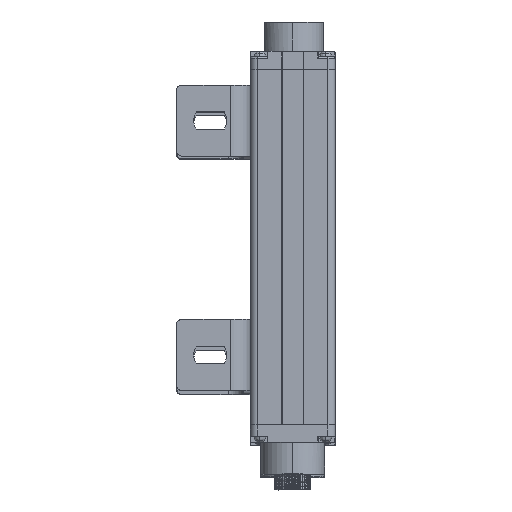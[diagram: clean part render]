
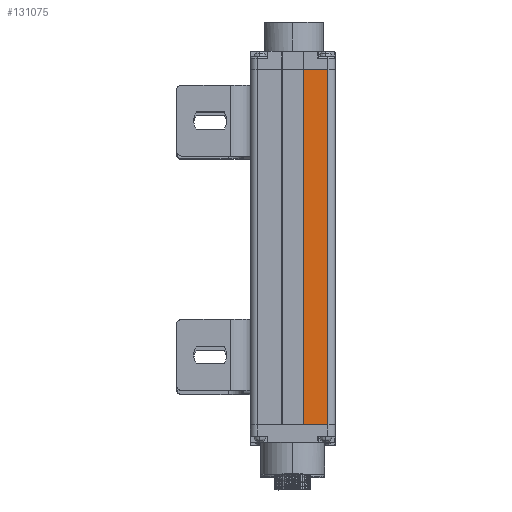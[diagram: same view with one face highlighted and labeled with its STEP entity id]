
A CAD part, top view. The second image highlights one B-rep face of the part: STEP entity #131075.
In plain terms, the highlighted planar face has unit normal (0, 0.001, 1).
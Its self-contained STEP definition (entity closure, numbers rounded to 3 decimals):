
#8949 = AXIS2_PLACEMENT_3D ( 'NONE', #46794, #31248, #130927 ) ;
#11228 = CARTESIAN_POINT ( 'NONE',  ( 12.89, 145., 25.075 ) ) ;
#17369 = EDGE_CURVE ( 'NONE', #69547, #40366, #139795, .T. ) ;
#24542 = VERTEX_POINT ( 'NONE', #176480 ) ;
#24910 = LINE ( 'NONE', #149776, #40442 ) ;
#31248 = DIRECTION ( 'NONE',  ( 0., 0., 1. ) ) ;
#39901 = CARTESIAN_POINT ( 'NONE',  ( 0., 145., 25.075 ) ) ;
#40366 = VERTEX_POINT ( 'NONE', #11228 ) ;
#40442 = VECTOR ( 'NONE', #150394, 1000. ) ;
#43454 = LINE ( 'NONE', #182302, #50083 ) ;
#46794 = CARTESIAN_POINT ( 'NONE',  ( 3.005, 0., 25.075 ) ) ;
#50083 = VECTOR ( 'NONE', #141141, 1000. ) ;
#54818 = EDGE_LOOP ( 'NONE', ( #179558, #162604, #113408, #180330 ) ) ;
#62040 = CARTESIAN_POINT ( 'NONE',  ( 3.005, 145., 25.075 ) ) ;
#66567 = FACE_OUTER_BOUND ( 'NONE', #54818, .T. ) ;
#69547 = VERTEX_POINT ( 'NONE', #62040 ) ;
#73596 = PLANE ( 'NONE',  #8949 ) ;
#76672 = LINE ( 'NONE', #162573, #127944 ) ;
#77453 = VECTOR ( 'NONE', #139608, 1000. ) ;
#79033 = DIRECTION ( 'NONE',  ( 1., 0., 0. ) ) ;
#98901 = EDGE_CURVE ( 'NONE', #40366, #24542, #43454, .T. ) ;
#113408 = ORIENTED_EDGE ( 'NONE', *, *, #98901, .F. ) ;
#115149 = EDGE_CURVE ( 'NONE', #69547, #127321, #24910, .T. ) ;
#127321 = VERTEX_POINT ( 'NONE', #129304 ) ;
#127944 = VECTOR ( 'NONE', #79033, 1000. ) ;
#129304 = CARTESIAN_POINT ( 'NONE',  ( 3.005, 0., 25.075 ) ) ;
#130927 = DIRECTION ( 'NONE',  ( 1., 0., 0. ) ) ;
#131075 = ADVANCED_FACE ( 'NONE', ( #66567 ), #73596, .T. ) ;
#139608 = DIRECTION ( 'NONE',  ( 1., 0., 0. ) ) ;
#139795 = LINE ( 'NONE', #39901, #77453 ) ;
#141141 = DIRECTION ( 'NONE',  ( 0., -1., 0. ) ) ;
#149776 = CARTESIAN_POINT ( 'NONE',  ( 3.005, 0., 25.075 ) ) ;
#150394 = DIRECTION ( 'NONE',  ( 0., -1., 0. ) ) ;
#162573 = CARTESIAN_POINT ( 'NONE',  ( 3.005, 0., 25.075 ) ) ;
#162604 = ORIENTED_EDGE ( 'NONE', *, *, #166996, .T. ) ;
#166996 = EDGE_CURVE ( 'NONE', #127321, #24542, #76672, .T. ) ;
#176480 = CARTESIAN_POINT ( 'NONE',  ( 12.89, 0., 25.075 ) ) ;
#179558 = ORIENTED_EDGE ( 'NONE', *, *, #115149, .T. ) ;
#180330 = ORIENTED_EDGE ( 'NONE', *, *, #17369, .F. ) ;
#182302 = CARTESIAN_POINT ( 'NONE',  ( 12.89, 0., 25.075 ) ) ;
